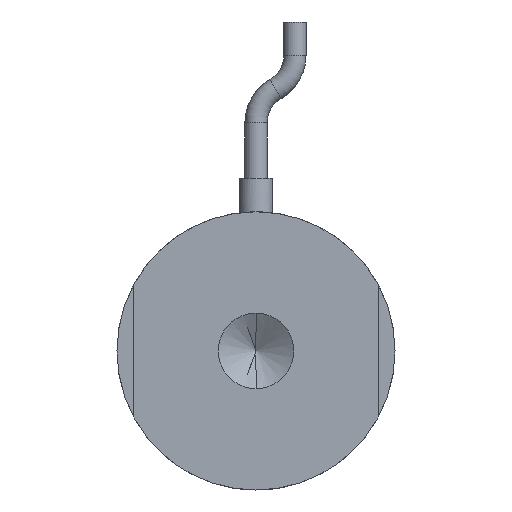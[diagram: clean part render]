
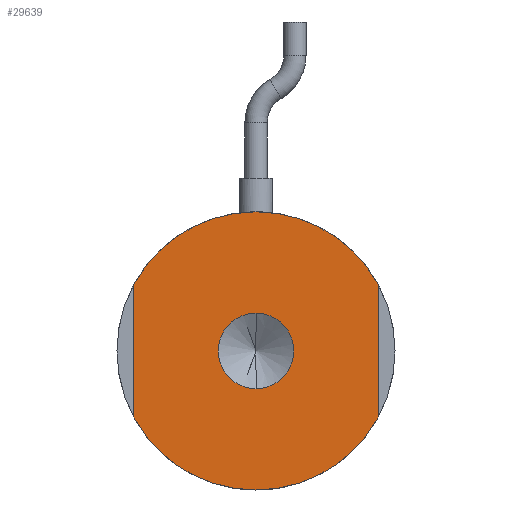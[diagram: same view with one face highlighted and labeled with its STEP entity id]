
A CAD part, front view. The second image highlights one B-rep face of the part: STEP entity #29639.
In plain terms, the highlighted planar face has unit normal (0, -1, 0).
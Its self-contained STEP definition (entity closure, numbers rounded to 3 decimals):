
#628 = CIRCLE ( 'NONE', #3662, 12.5 ) ;
#1044 = DIRECTION ( 'NONE',  ( 0., 1., 0. ) ) ;
#1431 = EDGE_LOOP ( 'NONE', ( #39363, #34479 ) ) ;
#1913 = VERTEX_POINT ( 'NONE', #4094 ) ;
#2432 = ORIENTED_EDGE ( 'NONE', *, *, #28118, .F. ) ;
#2716 = CIRCLE ( 'NONE', #17264, 12.5 ) ;
#2779 = DIRECTION ( 'NONE',  ( 0., -1., 0. ) ) ;
#3662 = AXIS2_PLACEMENT_3D ( 'NONE', #20589, #44808, #24077 ) ;
#4094 = CARTESIAN_POINT ( 'NONE',  ( 0., 0., 3.4 ) ) ;
#4857 = LINE ( 'NONE', #42552, #33656 ) ;
#5347 = CARTESIAN_POINT ( 'NONE',  ( 0., 0., -3.4 ) ) ;
#5562 = CARTESIAN_POINT ( 'NONE',  ( 0., 0., 0. ) ) ;
#7592 = CARTESIAN_POINT ( 'NONE',  ( 11., 0., -5.937 ) ) ;
#9062 = DIRECTION ( 'NONE',  ( 0., 0., 1. ) ) ;
#9177 = CARTESIAN_POINT ( 'NONE',  ( 0., 0., 0. ) ) ;
#10527 = DIRECTION ( 'NONE',  ( 0., 1., 0. ) ) ;
#11558 = CARTESIAN_POINT ( 'NONE',  ( 0., 0., 0. ) ) ;
#11783 = AXIS2_PLACEMENT_3D ( 'NONE', #9177, #37122, #16312 ) ;
#12074 = LINE ( 'NONE', #37247, #21350 ) ;
#13319 = EDGE_CURVE ( 'NONE', #20992, #18221, #628, .T. ) ;
#13577 = AXIS2_PLACEMENT_3D ( 'NONE', #5562, #29893, #9062 ) ;
#14519 = CIRCLE ( 'NONE', #13577, 12.5 ) ;
#15084 = DIRECTION ( 'NONE',  ( 0., 0., -1. ) ) ;
#16057 = ORIENTED_EDGE ( 'NONE', *, *, #33586, .F. ) ;
#16312 = DIRECTION ( 'NONE',  ( 0., 0., 1. ) ) ;
#16686 = AXIS2_PLACEMENT_3D ( 'NONE', #31384, #10527, #34867 ) ;
#17264 = AXIS2_PLACEMENT_3D ( 'NONE', #21919, #1044, #25419 ) ;
#17521 = VERTEX_POINT ( 'NONE', #20868 ) ;
#18221 = VERTEX_POINT ( 'NONE', #32963 ) ;
#19779 = AXIS2_PLACEMENT_3D ( 'NONE', #11558, #35892, #15084 ) ;
#19972 = DIRECTION ( 'NONE',  ( 0., 0., -1. ) ) ;
#20589 = CARTESIAN_POINT ( 'NONE',  ( 0., 0., 0. ) ) ;
#20811 = FACE_OUTER_BOUND ( 'NONE', #25366, .T. ) ;
#20868 = CARTESIAN_POINT ( 'NONE',  ( 0., 0., 12.5 ) ) ;
#20992 = VERTEX_POINT ( 'NONE', #34613 ) ;
#21350 = VECTOR ( 'NONE', #19972, 1000. ) ;
#21506 = ORIENTED_EDGE ( 'NONE', *, *, #21526, .F. ) ;
#21526 = EDGE_CURVE ( 'NONE', #18221, #38929, #4857, .T. ) ;
#21919 = CARTESIAN_POINT ( 'NONE',  ( 0., 0., 0. ) ) ;
#23561 = VERTEX_POINT ( 'NONE', #24948 ) ;
#23652 = CARTESIAN_POINT ( 'NONE',  ( 0., 0., 0. ) ) ;
#24077 = DIRECTION ( 'NONE',  ( 0., 0., 1. ) ) ;
#24328 = CIRCLE ( 'NONE', #19779, 3.4 ) ;
#24948 = CARTESIAN_POINT ( 'NONE',  ( 11., 0., 5.937 ) ) ;
#25366 = EDGE_LOOP ( 'NONE', ( #21506, #30184, #34528, #30231, #2432, #16057 ) ) ;
#25391 = VERTEX_POINT ( 'NONE', #5347 ) ;
#25419 = DIRECTION ( 'NONE',  ( 0., 0., 1. ) ) ;
#27107 = DIRECTION ( 'NONE',  ( 0., 0., -1. ) ) ;
#28118 = EDGE_CURVE ( 'NONE', #17521, #23561, #38200, .T. ) ;
#29639 = ADVANCED_FACE ( 'NONE', ( #30047, #20811 ), #36973, .F. ) ;
#29893 = DIRECTION ( 'NONE',  ( 0., 1., 0. ) ) ;
#30047 = FACE_BOUND ( 'NONE', #1431, .T. ) ;
#30184 = ORIENTED_EDGE ( 'NONE', *, *, #13319, .F. ) ;
#30231 = ORIENTED_EDGE ( 'NONE', *, *, #30374, .F. ) ;
#30374 = EDGE_CURVE ( 'NONE', #23561, #30596, #12074, .T. ) ;
#30596 = VERTEX_POINT ( 'NONE', #7592 ) ;
#31384 = CARTESIAN_POINT ( 'NONE',  ( 0., 0., 0. ) ) ;
#31996 = DIRECTION ( 'NONE',  ( 0., 0., 1. ) ) ;
#32963 = CARTESIAN_POINT ( 'NONE',  ( -11., 0., -5.937 ) ) ;
#33586 = EDGE_CURVE ( 'NONE', #38929, #17521, #2716, .T. ) ;
#33656 = VECTOR ( 'NONE', #31996, 1000. ) ;
#34479 = ORIENTED_EDGE ( 'NONE', *, *, #41890, .F. ) ;
#34515 = EDGE_CURVE ( 'NONE', #25391, #1913, #35896, .T. ) ;
#34528 = ORIENTED_EDGE ( 'NONE', *, *, #41290, .F. ) ;
#34613 = CARTESIAN_POINT ( 'NONE',  ( 0., 0., -12.5 ) ) ;
#34867 = DIRECTION ( 'NONE',  ( 0., 0., 1. ) ) ;
#34952 = CARTESIAN_POINT ( 'NONE',  ( -11., 0., 5.937 ) ) ;
#35892 = DIRECTION ( 'NONE',  ( 0., -1., 0. ) ) ;
#35896 = CIRCLE ( 'NONE', #44287, 3.4 ) ;
#36973 = PLANE ( 'NONE',  #11783 ) ;
#37122 = DIRECTION ( 'NONE',  ( 0., 1., 0. ) ) ;
#37247 = CARTESIAN_POINT ( 'NONE',  ( 11., 0., 0. ) ) ;
#38200 = CIRCLE ( 'NONE', #16686, 12.5 ) ;
#38929 = VERTEX_POINT ( 'NONE', #34952 ) ;
#39363 = ORIENTED_EDGE ( 'NONE', *, *, #34515, .F. ) ;
#41290 = EDGE_CURVE ( 'NONE', #30596, #20992, #14519, .T. ) ;
#41890 = EDGE_CURVE ( 'NONE', #1913, #25391, #24328, .T. ) ;
#42552 = CARTESIAN_POINT ( 'NONE',  ( -11., 0., 0. ) ) ;
#44287 = AXIS2_PLACEMENT_3D ( 'NONE', #23652, #2779, #27107 ) ;
#44808 = DIRECTION ( 'NONE',  ( 0., 1., 0. ) ) ;
